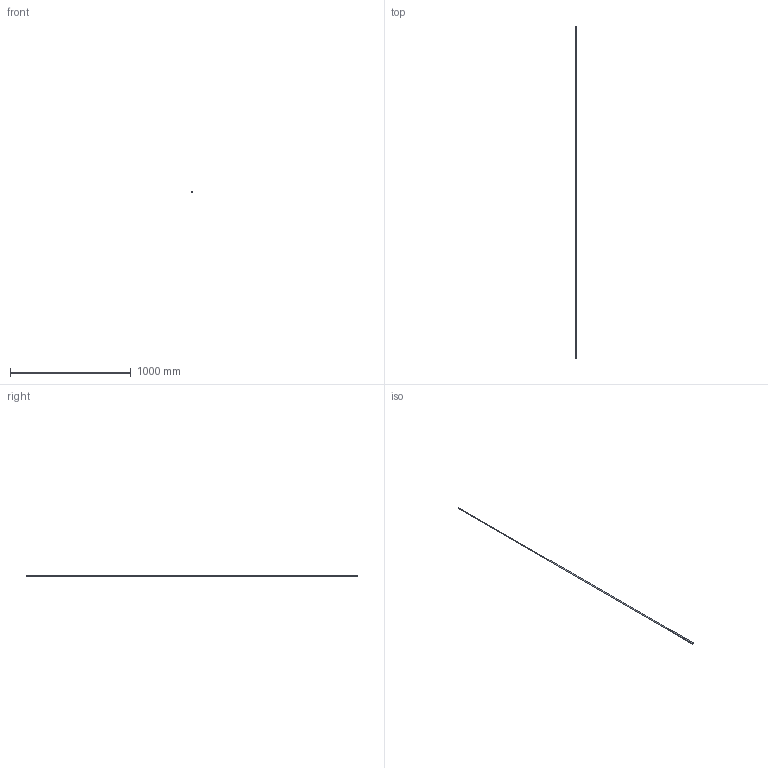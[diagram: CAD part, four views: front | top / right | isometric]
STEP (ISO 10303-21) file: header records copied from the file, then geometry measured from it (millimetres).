
FILE_DESCRIPTION (( 'STEP AP203' ), '1' );
FILE_NAME ('CAYLAR NMR Probe - Model RB.STEP', '2021-08-10T13:44:13', ( '' ), ( '' ), 'SwSTEP 2.0', 'SolidWorks 2016', '' );
FILE_SCHEMA (( 'CONFIG_CONTROL_DESIGN' ));
Length unit declared in the file: millimetre
Products named in the file (1): CAYLAR NMR Probe - Model RB
Bounding box: 16 x 2752.5 x 8.15 mm (x, y, z)
Volume: 156265.6 mm3; surface area: 75667.4 mm2
Topology: 2 solids, 2 shells, 66 faces, 166 edges, 107 vertices
Faces by surface type: plane 49, cylinder 8, cone 7, bspline 2
Full cylindrical faces by diameter (mm): 2.5 x1, 8.146 x1
Entity records: 2273 total; most frequent: CARTESIAN_POINT 663, ORIENTED_EDGE 324, DIRECTION 290, EDGE_CURVE 162, LINE 124, VECTOR 124, VERTEX_POINT 106, AXIS2_PLACEMENT_3D 83
